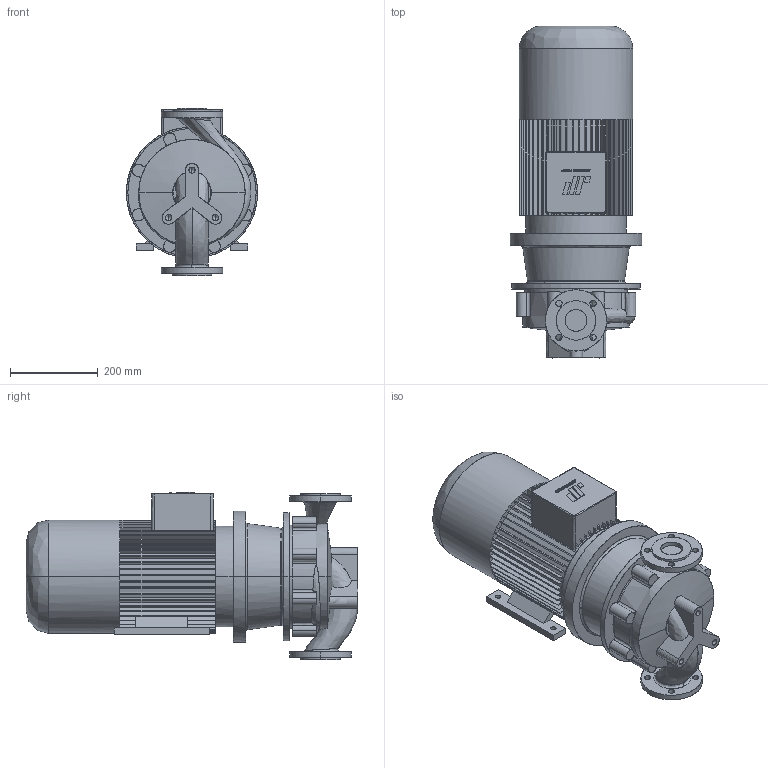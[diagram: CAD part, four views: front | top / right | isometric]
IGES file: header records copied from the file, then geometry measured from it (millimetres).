
Start section: CombiLine
Global section: file name: CLB_50-200_IEC132M.igs; native system:  By UGS Corp.; preprocessor: XPlus GENERIC/IGES 3.0; author: Stageplaats; organization: Johnson Pump Water B.V.; date: 20070713.131445; units: millimetre
Bounding box: 300 x 758.5 x 383 mm (x, y, z)
Surface area: 1269609.4 mm2 (no closed solid volume)
Topology: 0 solids, 0 shells, 580 faces, 3520 edges, 3514 vertices
Faces by surface type: bspline 580
